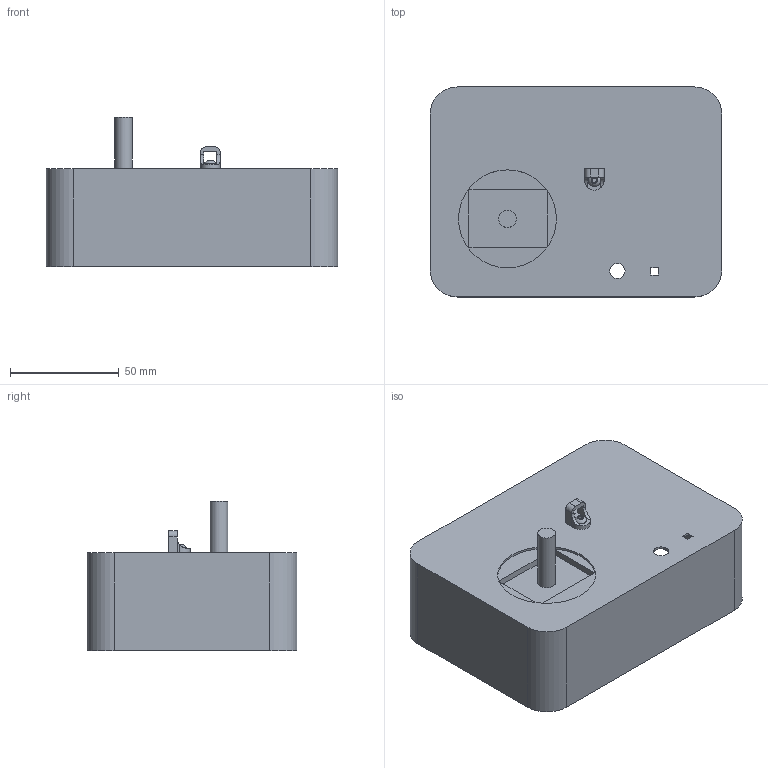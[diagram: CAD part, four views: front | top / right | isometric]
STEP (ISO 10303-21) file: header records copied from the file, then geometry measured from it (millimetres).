
FILE_DESCRIPTION(/* description */ (''),/* implementation_level */ '2;1');
FILE_NAME(/* name */ 'controller 5 just for export! DELETE AFTER v1.step',/* time_stamp */ '2022-11-21T11:11:10+01:00',/* author */ (''),/* organization */ (''),/* preprocessor_version */ 'ST-DEVELOPER v19.2',/* originating_system */ 'Autodesk Translation Framework v11.17.0.187',/* authorisation */ '');
FILE_SCHEMA (('AUTOMOTIVE_DESIGN { 1 0 10303 214 3 1 1 }'));
Length unit declared in the file: millimetre
Products named in the file (4): controller 5 just for export! DELETE AFTER; joystick; board v1; 94500A221_316 Stainless Steel Button Head Hex Drive Screws
Assembly tree (5 placements, depth 2):
  controller 5 just for export! DELETE AFTER
    joystick
    board v1
    94500A221_316 Stainless Steel Button Head Hex Drive Screws  x3
Bounding box: 134.05 x 96.45 x 68.6 mm (x, y, z)
Volume: 138202 mm3; surface area: 93689.7 mm2
Topology: 8 solids, 8 shells, 340 faces, 846 edges, 546 vertices
Faces by surface type: cylinder 149, plane 144, cone 32, bspline 6, torus 6, sphere 3
Full cylindrical faces by diameter (mm): 2.35 x36, 3 x30, 3.296 x1, 3.597 x1, 3.666 x1, 4.276 x1, 4.6 x4, 5.7 x3, 6 x4, 7 x1, 8 x1, 10.621 x2, 11.004 x1, 45 x1, 47.8 x1
Entity records: 9416 total; most frequent: CARTESIAN_POINT 3324, ORIENTED_EDGE 1244, DIRECTION 1211, EDGE_CURVE 622, AXIS2_PLACEMENT_3D 428, VERTEX_POINT 404, LINE 355, VECTOR 355
